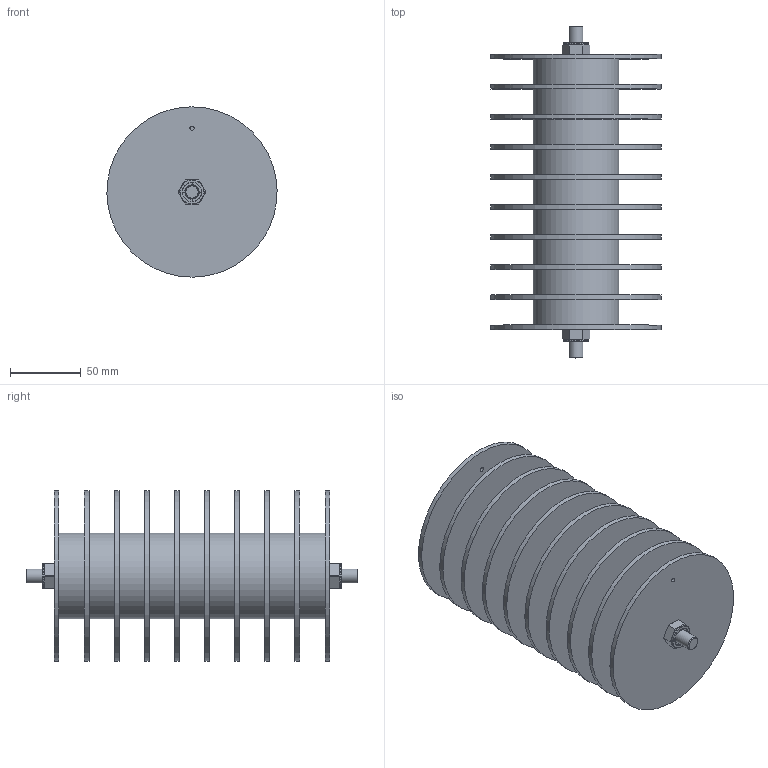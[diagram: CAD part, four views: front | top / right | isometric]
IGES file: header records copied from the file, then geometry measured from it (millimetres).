
Global section: file name: MGR-10; native system: unknown; preprocessor: unknown; author: unknown; organization: unknown; date: 20230628.154100; units: millimetre
Bounding box: 119.96 x 234 x 120 mm (x, y, z)
Volume: 831790.2 mm3; surface area: 233169.3 mm2
Topology: 4 solids, 4 shells, 135 faces, 331 edges, 222 vertices
Faces by surface type: bspline 135
